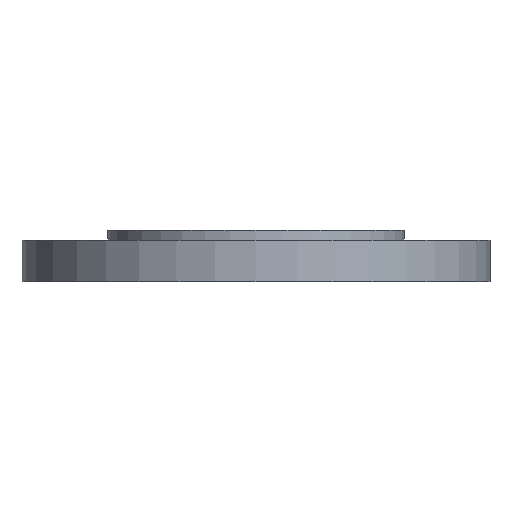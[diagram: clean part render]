
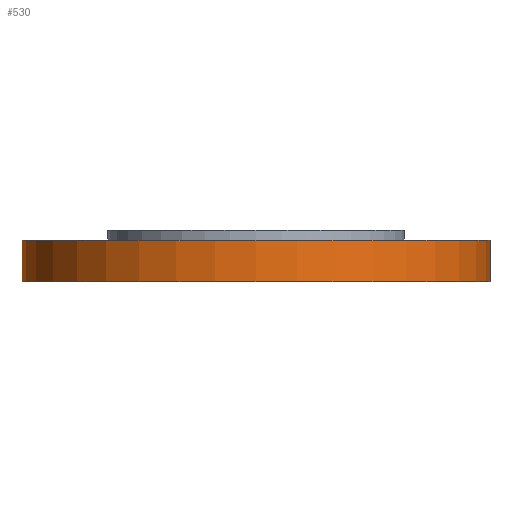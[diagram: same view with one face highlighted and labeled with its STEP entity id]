
A CAD part, front view. The second image highlights one B-rep face of the part: STEP entity #530.
In plain terms, the highlighted cylindrical face has radius 117.5 mm (diameter 235 mm), a partial arc.
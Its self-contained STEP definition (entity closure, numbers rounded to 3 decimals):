
#25 = CARTESIAN_POINT ( 'NONE',  ( -117.5, 0., -5. ) ) ;
#46 = EDGE_CURVE ( 'NONE', #943, #950, #180, .T. ) ;
#91 = AXIS2_PLACEMENT_3D ( 'NONE', #538, #708, #194 ) ;
#131 = EDGE_CURVE ( 'NONE', #959, #947, #248, .T. ) ;
#161 = CARTESIAN_POINT ( 'NONE',  ( 117.5, 0., -26. ) ) ;
#180 = LINE ( 'NONE', #182, #764 ) ;
#182 = CARTESIAN_POINT ( 'NONE',  ( 117.5, 0., -75. ) ) ;
#186 = DIRECTION ( 'NONE',  ( 0., 0., 1. ) ) ;
#194 = DIRECTION ( 'NONE',  ( 1., 0., 0. ) ) ;
#216 = AXIS2_PLACEMENT_3D ( 'NONE', #350, #562, #740 ) ;
#248 = LINE ( 'NONE', #250, #356 ) ;
#250 = CARTESIAN_POINT ( 'NONE',  ( -117.5, 0., -75. ) ) ;
#251 = DIRECTION ( 'NONE',  ( 0., 0., 1. ) ) ;
#264 = CARTESIAN_POINT ( 'NONE',  ( -117.5, 0., -26. ) ) ;
#284 = CYLINDRICAL_SURFACE ( 'NONE', #91, 117.5 ) ;
#323 = CIRCLE ( 'NONE', #216, 117.5 ) ;
#350 = CARTESIAN_POINT ( 'NONE',  ( 0., 0., -26. ) ) ;
#356 = VECTOR ( 'NONE', #251, 1000. ) ;
#423 = CARTESIAN_POINT ( 'NONE',  ( 0., 0., -5. ) ) ;
#448 = CIRCLE ( 'NONE', #491, 117.5 ) ;
#476 = EDGE_CURVE ( 'NONE', #950, #947, #448, .T. ) ;
#491 = AXIS2_PLACEMENT_3D ( 'NONE', #423, #599, #858 ) ;
#530 = ADVANCED_FACE ( 'NONE', ( #763 ), #284, .T. ) ;
#538 = CARTESIAN_POINT ( 'NONE',  ( 0., 0., -75. ) ) ;
#562 = DIRECTION ( 'NONE',  ( 0., 0., -1. ) ) ;
#598 = CARTESIAN_POINT ( 'NONE',  ( 117.5, 0., -5. ) ) ;
#599 = DIRECTION ( 'NONE',  ( 0., 0., -1. ) ) ;
#682 = EDGE_CURVE ( 'NONE', #943, #959, #323, .T. ) ;
#708 = DIRECTION ( 'NONE',  ( 0., 0., 1. ) ) ;
#740 = DIRECTION ( 'NONE',  ( -1., 0., 0. ) ) ;
#763 = FACE_OUTER_BOUND ( 'NONE', #957, .T. ) ;
#764 = VECTOR ( 'NONE', #186, 1000. ) ;
#779 = ORIENTED_EDGE ( 'NONE', *, *, #131, .F. ) ;
#780 = ORIENTED_EDGE ( 'NONE', *, *, #682, .F. ) ;
#782 = ORIENTED_EDGE ( 'NONE', *, *, #46, .T. ) ;
#786 = ORIENTED_EDGE ( 'NONE', *, *, #476, .T. ) ;
#858 = DIRECTION ( 'NONE',  ( -1., 0., 0. ) ) ;
#943 = VERTEX_POINT ( 'NONE', #161 ) ;
#947 = VERTEX_POINT ( 'NONE', #25 ) ;
#950 = VERTEX_POINT ( 'NONE', #598 ) ;
#957 = EDGE_LOOP ( 'NONE', ( #779, #780, #782, #786 ) ) ;
#959 = VERTEX_POINT ( 'NONE', #264 ) ;
